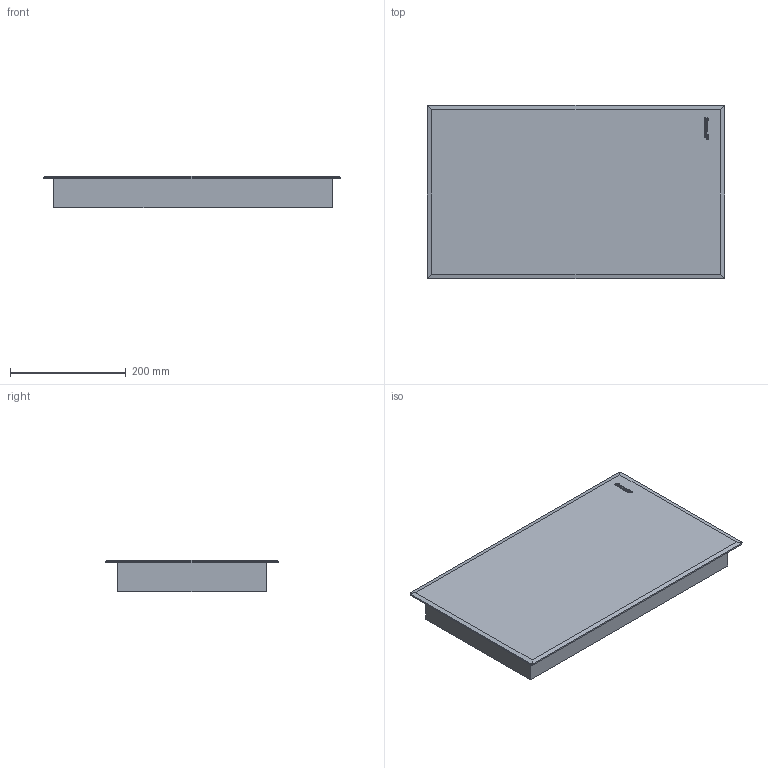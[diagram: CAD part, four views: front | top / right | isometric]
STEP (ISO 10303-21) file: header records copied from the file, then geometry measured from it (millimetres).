
FILE_DESCRIPTION(/* description */ (''),/* implementation_level */ '2;1');
FILE_NAME(/* name */ 'SI5322B.stp',/* time_stamp */ '2017-09-18T11:19:04+02:00',/* author */ (''),/* organization */ (''),/* preprocessor_version */ 'ST-DEVELOPER v16',/* originating_system */ 'SIEMENS PLM Software NX 11.0',/* authorisation */ '');
FILE_SCHEMA (('AUTOMOTIVE_DESIGN { 1 0 10303 214 3 1 1 1 }'));
Length unit declared in the file: millimetre
Products named in the file (1): gras46D4D3D6guqy
Bounding box: 515 x 300 x 55 mm (x, y, z)
Volume: 6860986.5 mm3; surface area: 636483.9 mm2
Topology: 12 solids, 12 shells, 102 faces, 231 edges, 154 vertices
Faces by surface type: plane 65, cylinder 26, extrusion 11
Full cylindrical faces by diameter (mm): 3.37 x6
Entity records: 3169 total; most frequent: CARTESIAN_POINT 784, DIRECTION 452, ORIENTED_EDGE 448, EDGE_CURVE 224, VECTOR 156, VERTEX_POINT 154, AXIS2_PLACEMENT_3D 148, LINE 145
